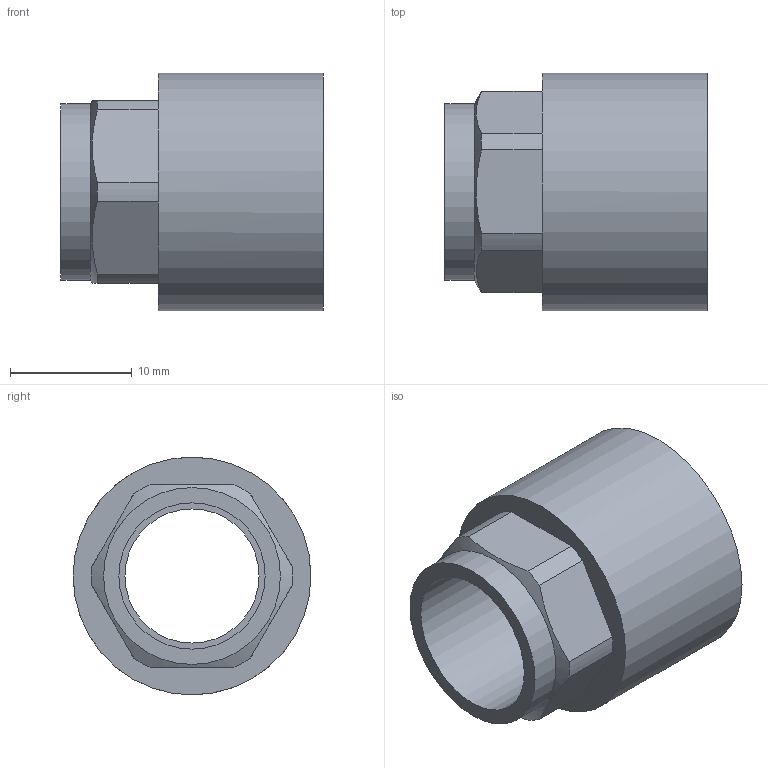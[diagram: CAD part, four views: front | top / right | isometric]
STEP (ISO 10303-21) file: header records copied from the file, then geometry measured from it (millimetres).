
FILE_DESCRIPTION((''),'2;1');
FILE_NAME('\\Lg50001\groups\SANHA Legnica\Engineering\Public\RYSUNKI\SANHA POLSKA\4270G\STEP\14270g_12-38(2).stp','2010-10-26T11:07:58',('pajchrowski'),(''),'Autodesk Inventor 2009','Autodesk Inventor 2009','');
FILE_SCHEMA(('AUTOMOTIVE_DESIGN { 1 0 10303 214 1 1 1 1 }'));
Length unit declared in the file: millimetre
Products named in the file (1): 14270_12-38(2)
Bounding box: 21.5 x 19.5 x 19.5 mm (x, y, z)
Volume: 2215 mm3; surface area: 2588.4 mm2
Topology: 1 solids, 1 shells, 27 faces, 62 edges, 40 vertices
Faces by surface type: cylinder 12, plane 11, cone 3, torus 1
Full cylindrical faces by diameter (mm): 11 x1, 12 x1, 14.5 x1, 14.95 x1, 17.3 x1, 19.5 x1
Entity records: 726 total; most frequent: CARTESIAN_POINT 128, DIRECTION 126, ORIENTED_EDGE 100, AXIS2_PLACEMENT_3D 54, EDGE_CURVE 50, EDGE_LOOP 42, VERTEX_POINT 38, FACE_OUTER_BOUND 27
